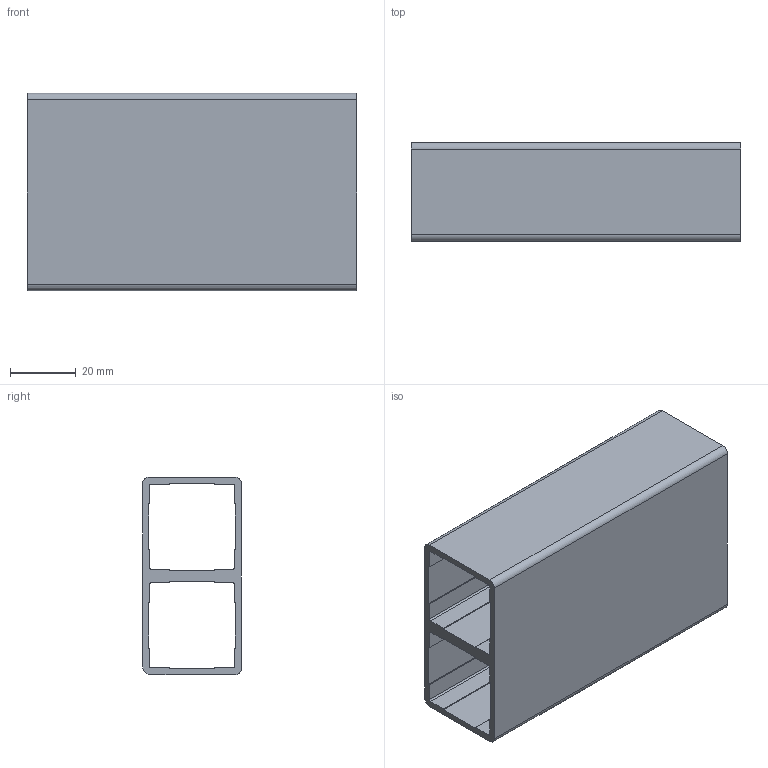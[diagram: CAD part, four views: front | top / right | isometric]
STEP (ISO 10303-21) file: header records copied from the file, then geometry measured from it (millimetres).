
FILE_DESCRIPTION (( 'STEP AP203' ), '1' );
FILE_NAME ('B30060A.STEP', '2017-03-22T11:30:13', ( 'Localadmin' ), ( 'Microsoft' ), 'SwSTEP 2.0', 'SolidWorks 2016', '' );
FILE_SCHEMA (( 'CONFIG_CONTROL_DESIGN' ));
Length unit declared in the file: millimetre
Products named in the file (1): B30060A
Bounding box: 100 x 30 x 60 mm (x, y, z)
Volume: 43211.6 mm3; surface area: 39447.9 mm2
Topology: 1 solids, 1 shells, 58 faces, 168 edges, 112 vertices
Faces by surface type: plane 46, cylinder 12
Entity records: 1981 total; most frequent: CARTESIAN_POINT 339, ORIENTED_EDGE 336, DIRECTION 310, EDGE_CURVE 168, LINE 144, VECTOR 144, VERTEX_POINT 112, AXIS2_PLACEMENT_3D 83
